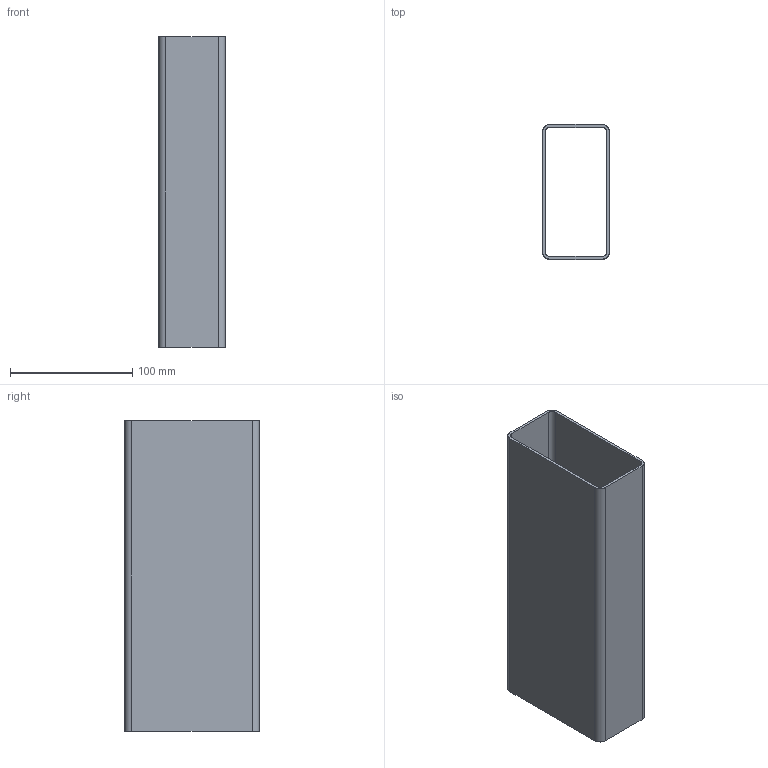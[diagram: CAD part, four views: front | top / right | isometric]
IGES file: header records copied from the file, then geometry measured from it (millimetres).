
Start section: SolidWorks IGES file using analytic representation for surfaces
Global section: file name: C:\Working\Gusset Convert\DRP-002-0000-05.IGS; native system: SolidWorks 2010; preprocessor: SolidWorks 2010; author: mbush2; date: 100624.130111; units: inch
Bounding box: 54.61 x 110.31 x 254 mm (x, y, z)
Surface area: 160282.6 mm2 (no closed solid volume)
Topology: 0 solids, 0 shells, 18 faces, 208 edges, 208 vertices
Faces by surface type: bspline 10, revolution 8
